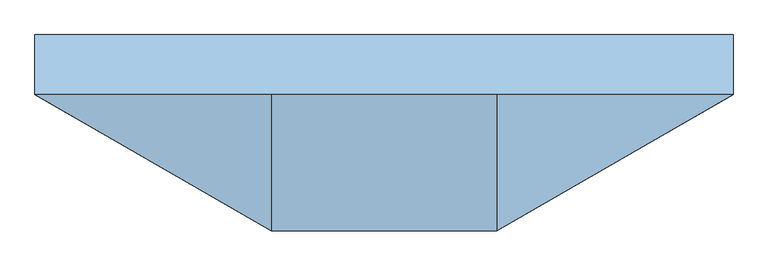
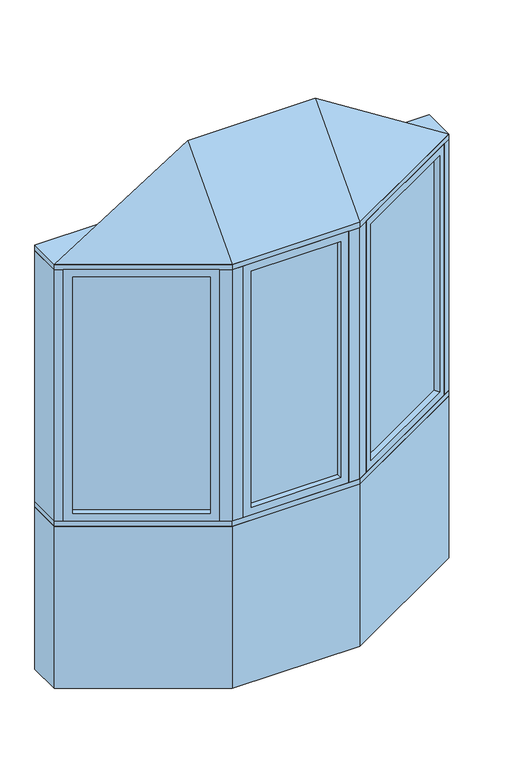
"""IFC4 building model written with IfcOpenShell, lengths in millimetres: window geometry, Pollard_Windows_Tudor Casement Bows and Bays : AML-BAY 30 AFR0512-08-600."""

from ifc_helpers import new_model, si_unit, frame, origin, origin_with_axes, place, context, project, spatial, polyline, outline, extrude, faceted_brep, source, transform, mapped, element, save


def window_56131e6e(model_context):
    return source(origin(), model_context, "Body", "SolidModel", [
        extrude(outline(polyline([(826.612102, -82.0482469), (338.3834764, -363.9271754), (335.8434764, -359.5277664), (824.072102, -77.6488379), (826.612102, -82.0482469)])), frame((0.0, 0.0, 823.1628), z_axis=(0.0, 0.0, 1.0), x_axis=(1.0, 0.0, 0.0)), (0.0, 0.0, 1.0), 1153.6704),
        faceted_brep([(815.6135794, -88.3982469, 835.8628), (828.3135794, -110.3952922, 835.8628), (828.3135794, -110.3952922, 1964.1332), (815.6135794, -88.3982469, 1964.1332), (824.072102, -77.6488379, 823.1628), (826.612102, -82.0482469, 823.1628), (826.612102, -82.0482469, 1976.8332), (824.072102, -77.6488379, 1976.8332), (800.3735794, -62.0017926, 835.8628), (813.0735794, -83.9988379, 835.8628), (813.0735794, -83.9988379, 1964.1332), (800.3735794, -62.0017926, 1964.1332), (859.3734073, -92.4628922, 799.998), (831.4334073, -44.0693926, 799.998), (831.4334073, -44.0693926, 1999.998), (859.3734073, -92.4628922, 1999.998), (362.081999, -379.5742207, 1964.1332), (349.381999, -357.5771754, 1964.1332), (338.3834764, -363.9271754, 1976.8332), (335.8434764, -359.5277664, 1976.8332), (346.841999, -353.1777664, 1964.1332), (334.141999, -331.1807211, 1964.1332), (303.0821711, -349.1131211, 1999.998), (331.0221711, -397.5066207, 1999.998), (362.081999, -379.5742207, 835.8628), (349.381999, -357.5771754, 835.8628), (338.3834764, -363.9271754, 823.1628), (335.8434764, -359.5277664, 823.1628), (346.841999, -353.1777664, 835.8628), (334.141999, -331.1807211, 835.8628), (303.0821711, -349.1131211, 799.998), (331.0221711, -397.5066207, 799.998)], [[[0, 1, 2, 3]], [[4, 5, 6, 7]], [[8, 9, 10, 11]], [[12, 13, 14, 15]], [[3, 2, 16, 17]], [[7, 6, 18, 19]], [[11, 10, 20, 21]], [[15, 14, 22, 23]], [[17, 16, 24, 25]], [[19, 18, 26, 27]], [[21, 20, 28, 29]], [[23, 22, 30, 31]], [[25, 24, 1, 0]], [[5, 26, 18, 6], [3, 17, 25, 0]], [[27, 26, 5, 4]], [[7, 19, 27, 4], [9, 28, 20, 10]], [[29, 28, 9, 8]], [[13, 30, 22, 14], [11, 21, 29, 8]], [[31, 30, 13, 12]], [[15, 23, 31, 12], [1, 24, 16, 2]]]),
        extrude(outline(polyline([(-338.3834764, -363.9271754), (-826.612102, -82.0482469), (-824.072102, -77.6488379), (-335.8434764, -359.5277664), (-338.3834764, -363.9271754)])), frame((0.0, 0.0, 823.1628), z_axis=(0.0, 0.0, 1.0), x_axis=(1.0, 0.0, 0.0)), (0.0, 0.0, 1.0), 1153.6704),
        faceted_brep([(-346.841999, -353.1777664, 1964.1332), (-334.141999, -331.1807211, 1964.1332), (-334.141999, -331.1807211, 835.8628), (-346.841999, -353.1777664, 835.8628), (-338.3834764, -363.9271754, 1976.8332), (-335.8434764, -359.5277664, 1976.8332), (-335.8434764, -359.5277664, 823.1628), (-338.3834764, -363.9271754, 823.1628), (-362.081999, -379.5742207, 1964.1332), (-349.381999, -357.5771754, 1964.1332), (-349.381999, -357.5771754, 835.8628), (-362.081999, -379.5742207, 835.8628), (-303.0821711, -349.1131211, 1999.998), (-331.0221711, -397.5066207, 1999.998), (-331.0221711, -397.5066207, 799.998), (-303.0821711, -349.1131211, 799.998), (-800.3735794, -62.0017926, 835.8628), (-813.0735794, -83.9988379, 835.8628), (-824.072102, -77.6488379, 823.1628), (-826.612102, -82.0482469, 823.1628), (-815.6135794, -88.3982469, 835.8628), (-828.3135794, -110.3952922, 835.8628), (-859.3734073, -92.4628922, 799.998), (-831.4334073, -44.0693926, 799.998), (-800.3735794, -62.0017926, 1964.1332), (-813.0735794, -83.9988379, 1964.1332), (-824.072102, -77.6488379, 1976.8332), (-826.612102, -82.0482469, 1976.8332), (-815.6135794, -88.3982469, 1964.1332), (-828.3135794, -110.3952922, 1964.1332), (-859.3734073, -92.4628922, 1999.998), (-831.4334073, -44.0693926, 1999.998)], [[[0, 1, 2, 3]], [[4, 5, 6, 7]], [[8, 9, 10, 11]], [[12, 13, 14, 15]], [[3, 2, 16, 17]], [[7, 6, 18, 19]], [[11, 10, 20, 21]], [[15, 14, 22, 23]], [[17, 16, 24, 25]], [[19, 18, 26, 27]], [[21, 20, 28, 29]], [[23, 22, 30, 31]], [[15, 23, 31, 12], [1, 24, 16, 2]], [[25, 24, 1, 0]], [[5, 26, 18, 6], [3, 17, 25, 0]], [[27, 26, 5, 4]], [[7, 19, 27, 4], [9, 28, 20, 10]], [[29, 28, 9, 8]], [[13, 30, 22, 14], [11, 21, 29, 8]], [[31, 30, 13, 12]]]),
        extrude(outline(polyline([(214.5561009, -397.1066207), (-214.5561009, -397.1066207), (-214.5561009, -392.0266207), (214.5561009, -392.0266207), (214.5561009, -397.1066207)])), frame((0.0, 0.0, 823.1628), z_axis=(0.0, 0.0, 1.0), x_axis=(1.0, 0.0, 0.0)), (0.0, 0.0, 1.0), 1153.6704),
        faceted_brep([(201.8561009, -397.1066207, 835.8628), (201.8561009, -422.5066207, 835.8628), (201.8561009, -422.5066207, 1964.1332), (201.8561009, -397.1066207, 1964.1332), (214.5561009, -392.0266207, 823.1628), (214.5561009, -397.1066207, 823.1628), (214.5561009, -397.1066207, 1976.8332), (214.5561009, -392.0266207, 1976.8332), (201.8561009, -366.6266207, 835.8628), (201.8561009, -392.0266207, 835.8628), (201.8561009, -392.0266207, 1964.1332), (201.8561009, -366.6266207, 1964.1332), (237.7209009, -422.5066207, 799.998), (237.7209009, -366.6266207, 799.998), (237.7209009, -366.6266207, 1999.998), (237.7209009, -422.5066207, 1999.998), (-201.8561009, -422.5066207, 1964.1332), (-201.8561009, -397.1066207, 1964.1332), (-214.5561009, -397.1066207, 1976.8332), (-214.5561009, -392.0266207, 1976.8332), (-201.8561009, -392.0266207, 1964.1332), (-201.8561009, -366.6266207, 1964.1332), (-237.7209009, -366.6266207, 1999.998), (-237.7209009, -422.5066207, 1999.998), (-201.8561009, -422.5066207, 835.8628), (-201.8561009, -397.1066207, 835.8628), (-214.5561009, -397.1066207, 823.1628), (-214.5561009, -392.0266207, 823.1628), (-201.8561009, -392.0266207, 835.8628), (-201.8561009, -366.6266207, 835.8628), (-237.7209009, -366.6266207, 799.998), (-237.7209009, -422.5066207, 799.998)], [[[0, 1, 2, 3]], [[4, 5, 6, 7]], [[8, 9, 10, 11]], [[12, 13, 14, 15]], [[3, 2, 16, 17]], [[7, 6, 18, 19]], [[11, 10, 20, 21]], [[15, 14, 22, 23]], [[17, 16, 24, 25]], [[19, 18, 26, 27]], [[21, 20, 28, 29]], [[23, 22, 30, 31]], [[15, 23, 31, 12], [1, 24, 16, 2]], [[25, 24, 1, 0]], [[5, 26, 18, 6], [3, 17, 25, 0]], [[27, 26, 5, 4]], [[7, 19, 27, 4], [9, 28, 20, 10]], [[29, 28, 9, 8]], [[13, 30, 22, 14], [11, 21, 29, 8]], [[31, 30, 13, 12]]]),
        faceted_brep([(890.0, -74.7806207, 2025.398), (287.7209009, -422.5066207, 2025.398), (-287.7209009, -422.5066207, 2025.398), (-890.0, -74.7806207, 2025.398), (-287.7209009, -74.7806207, 2406.398), (287.7209009, -74.7806207, 2406.398)], [[[0, 1, 2, 3]], [[3, 2, 4]], [[2, 1, 5, 4]], [[1, 0, 5]], [[0, 3, 4, 5]]]),
        extrude(outline(polyline([(-890.0, 77.6193793), (890.0, 77.6193793), (890.0, -74.7806207), (287.7209009, -422.5066207), (-287.7209009, -422.5066207), (-890.0, -74.7806207), (-890.0, 77.6193793)])), frame((0.0, 0.0, 1999.998), z_axis=(0.0, 0.0, 1.0), x_axis=(1.0, 0.0, 0.0)), (0.0, 0.0, 1.0), 25.4),
        extrude(outline(polyline([(-890.0, -74.7806207), (-890.0, 77.6193793), (-849.1645431, 77.6193793), (-849.1645431, -74.7806207), (-859.3734073, -92.4628922), (-890.0, -74.7806207)])), frame((0.0, 0.0, 799.998), z_axis=(0.0, 0.0, 1.0), x_axis=(1.0, 0.0, 0.0)), (0.0, 0.0, 1.0), 1200.0),
        extrude(outline(polyline([(890.0, 77.6193793), (890.0, -74.7806207), (859.3734073, -92.4628922), (849.1645431, -74.7806207), (849.1645431, 77.6193793), (890.0, 77.6193793)])), frame((0.0, 0.0, 799.998), z_axis=(0.0, 0.0, 1.0), x_axis=(1.0, 0.0, 0.0)), (0.0, 0.0, 1.0), 1200.0),
        extrude(outline(polyline([(287.7209009, -422.5066207), (237.7209009, -422.5066207), (237.7209009, -372.5066207), (274.3234413, -372.5066207), (306.0221711, -354.2053505), (331.0221711, -397.5066207), (287.7209009, -422.5066207)])), frame((0.0, 0.0, 799.998), z_axis=(0.0, 0.0, 1.0), x_axis=(1.0, 0.0, 0.0)), (0.0, 0.0, 1.0), 1200.0),
        extrude(outline(polyline([(-287.7209009, -422.5066207), (-331.0221711, -397.5066207), (-306.0221711, -354.2053505), (-274.3234413, -372.5066207), (-237.7209009, -372.5066207), (-237.7209009, -422.5066207), (-287.7209009, -422.5066207)])), frame((0.0, 0.0, 799.998), z_axis=(0.0, 0.0, 1.0), x_axis=(1.0, 0.0, 0.0)), (0.0, 0.0, 1.0), 1200.0),
        extrude(outline(polyline([(-287.7209009, -422.5066207), (-890.0, -74.7806207), (-890.0, 77.6193793), (-849.1645431, 77.6193793), (-246.885444, -270.1066207), (246.885444, -270.1066207), (849.1645431, 77.6193793), (890.0, 77.6193793), (890.0, -74.7806207), (287.7209009, -422.5066207), (-287.7209009, -422.5066207)])), frame((0.0, 0.0, 774.598), z_axis=(0.0, 0.0, 1.0), x_axis=(1.0, 0.0, 0.0)), (0.0, 0.0, 1.0), 25.4),
        extrude(outline(polyline([(-890.0, -74.7806207), (-890.0, 77.6193793), (-849.1645431, 77.6193793), (-246.885444, -270.1066207), (246.885444, -270.1066207), (849.1645431, 77.6193793), (890.0, 77.6193793), (890.0, -74.7806207), (287.7209009, -422.5066207), (-287.7209009, -422.5066207), (-890.0, -74.7806207)])), origin_with_axes(), (0.0, 0.0, 1.0), 774.598),
    ])


if __name__ == "__main__":
    model = new_model("IFC4")
    model_context = context("Model", 3, world=origin())
    ifc_project = project(units=[si_unit("LENGTHUNIT", "METRE", prefix="MILLI")], contexts=[model_context])
    site = spatial("IfcSite", under=ifc_project)
    building = spatial("IfcBuilding", under=site)
    placement = place(None, origin())
    window_shape = window_56131e6e(model_context)
    element("IfcWindow", 1, ObjectType="Pollard_Windows_Tudor Casement Bows and Bays : AML-BAY 30 AFR0512-08-600", at=placement, inside=building, context=model_context, shape_type="MappedRepresentation", body=[
        mapped(window_shape, transform((0.0, 0.0, 0.0), x_axis=(1.0, 0.0, 0.0), y_axis=(0.0, 1.0, 0.0), z_axis=(0.0, 0.0, 1.0))),
    ])
    save(model, "model.ifc")
